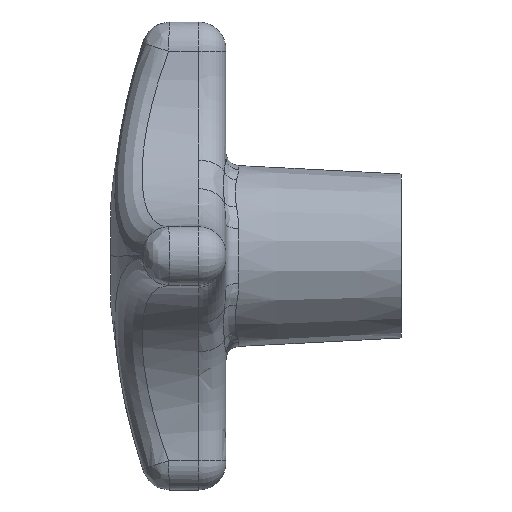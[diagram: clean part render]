
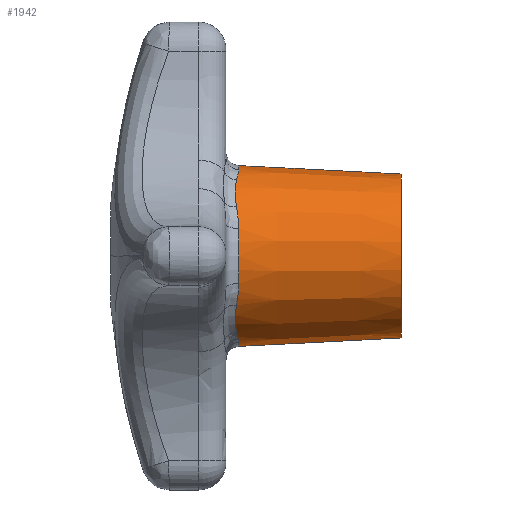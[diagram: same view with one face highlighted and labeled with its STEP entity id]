
A CAD part, left-side view. The second image highlights one B-rep face of the part: STEP entity #1942.
In plain terms, the highlighted conical face has half-angle 3 degrees and reference radius 7 mm.
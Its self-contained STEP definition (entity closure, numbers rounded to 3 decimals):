
#55 = EDGE_CURVE ( 'NONE', #2627, #2489, #959, .T. ) ;
#70 = CARTESIAN_POINT ( 'NONE',  ( -7.363, -1.106, 2.349 ) ) ;
#169 = VERTEX_POINT ( 'NONE', #3291 ) ;
#185 = CARTESIAN_POINT ( 'NONE',  ( 0., -15., 7. ) ) ;
#189 = CARTESIAN_POINT ( 'NONE',  ( -2.349, -1.106, 7.363 ) ) ;
#304 = B_SPLINE_CURVE_WITH_KNOTS ( 'NONE', 3,
 ( #2386, #2650, #775, #2419, #1118, #310, #846, #3273, #1344, #1372 ),
 .UNSPECIFIED., .F., .F.,
 ( 4, 2, 2, 2, 4 ),
 ( 0., 0.001, 0.002, 0.002, 0.003 ),
 .UNSPECIFIED. ) ;
#310 = CARTESIAN_POINT ( 'NONE',  ( -5.29, -0.8, -5.663 ) ) ;
#334 = B_SPLINE_CURVE_WITH_KNOTS ( 'NONE', 3,
 ( #1185, #1972, #3320, #1722 ),
 .UNSPECIFIED., .F., .F.,
 ( 4, 4 ),
 ( 0., 0.002 ),
 .UNSPECIFIED. ) ;
#353 = EDGE_CURVE ( 'NONE', #3410, #1877, #304, .T. ) ;
#359 = AXIS2_PLACEMENT_3D ( 'NONE', #1551, #2589, #1521 ) ;
#362 = VECTOR ( 'NONE', #2424, 1000. ) ;
#444 = EDGE_CURVE ( 'NONE', #2627, #1518, #641, .T. ) ;
#449 = DIRECTION ( 'NONE',  ( 0., 0., -1. ) ) ;
#451 = ORIENTED_EDGE ( 'NONE', *, *, #2303, .T. ) ;
#477 = CARTESIAN_POINT ( 'NONE',  ( -6.185, -0.838, 4.665 ) ) ;
#519 = EDGE_CURVE ( 'NONE', #1877, #2491, #334, .T. ) ;
#560 = EDGE_CURVE ( 'NONE', #1250, #2325, #2996, .T. ) ;
#609 = B_SPLINE_CURVE_WITH_KNOTS ( 'NONE', 3,
 ( #3380, #707, #2605, #2028 ),
 .UNSPECIFIED., .F., .F.,
 ( 4, 4 ),
 ( 0., 0.002 ),
 .UNSPECIFIED. ) ;
#634 = CARTESIAN_POINT ( 'NONE',  ( -7.363, -1.106, 2.349 ) ) ;
#641 = CIRCLE ( 'NONE', #1018, 7. ) ;
#655 = DIRECTION ( 'NONE',  ( 0., 0., -1. ) ) ;
#679 = CARTESIAN_POINT ( 'NONE',  ( -4.218, -0.897, -6.489 ) ) ;
#707 = CARTESIAN_POINT ( 'NONE',  ( -7.15, -1.106, -3.016 ) ) ;
#713 = B_SPLINE_CURVE_WITH_KNOTS ( 'NONE', 3,
 ( #964, #2293, #1524, #2840, #3388, #1221, #977, #477, #1770, #2554 ),
 .UNSPECIFIED., .F., .F.,
 ( 4, 2, 2, 2, 4 ),
 ( 0., 0.001, 0.002, 0.002, 0.003 ),
 .UNSPECIFIED. ) ;
#720 = CARTESIAN_POINT ( 'NONE',  ( -4.218, -0.897, 6.489 ) ) ;
#767 = ORIENTED_EDGE ( 'NONE', *, *, #560, .T. ) ;
#775 = CARTESIAN_POINT ( 'NONE',  ( -6.186, -0.838, -4.664 ) ) ;
#832 = VECTOR ( 'NONE', #3154, 1000. ) ;
#846 = CARTESIAN_POINT ( 'NONE',  ( -5.087, -0.807, -5.845 ) ) ;
#951 = CARTESIAN_POINT ( 'NONE',  ( 0., -1.106, 0. ) ) ;
#954 = CARTESIAN_POINT ( 'NONE',  ( 0., -1.106, 0. ) ) ;
#959 = LINE ( 'NONE', #2705, #362 ) ;
#964 = CARTESIAN_POINT ( 'NONE',  ( -4.218, -0.897, 6.489 ) ) ;
#973 = ORIENTED_EDGE ( 'NONE', *, *, #2186, .T. ) ;
#977 = CARTESIAN_POINT ( 'NONE',  ( -5.845, -0.807, 5.087 ) ) ;
#1014 = ORIENTED_EDGE ( 'NONE', *, *, #444, .T. ) ;
#1018 = AXIS2_PLACEMENT_3D ( 'NONE', #2769, #2221, #2538 ) ;
#1118 = CARTESIAN_POINT ( 'NONE',  ( -5.67, -0.801, -5.282 ) ) ;
#1152 = CIRCLE ( 'NONE', #2719, 7.728 ) ;
#1170 = AXIS2_PLACEMENT_3D ( 'NONE', #1176, #1190, #655 ) ;
#1176 = CARTESIAN_POINT ( 'NONE',  ( 0., -1.106, 0. ) ) ;
#1185 = CARTESIAN_POINT ( 'NONE',  ( -4.218, -0.897, -6.489 ) ) ;
#1190 = DIRECTION ( 'NONE',  ( 0., -1., 0. ) ) ;
#1213 = CARTESIAN_POINT ( 'NONE',  ( 0., -1.106, 7.728 ) ) ;
#1214 = EDGE_CURVE ( 'NONE', #2325, #169, #713, .T. ) ;
#1221 = CARTESIAN_POINT ( 'NONE',  ( -5.663, -0.8, 5.29 ) ) ;
#1239 = DIRECTION ( 'NONE',  ( 0., 0., -1. ) ) ;
#1250 = VERTEX_POINT ( 'NONE', #189 ) ;
#1282 = EDGE_CURVE ( 'NONE', #2170, #1778, #1152, .T. ) ;
#1292 = CARTESIAN_POINT ( 'NONE',  ( -4.218, -0.897, 6.489 ) ) ;
#1344 = CARTESIAN_POINT ( 'NONE',  ( -4.445, -0.861, -6.343 ) ) ;
#1352 = CARTESIAN_POINT ( 'NONE',  ( -6.489, -0.897, -4.218 ) ) ;
#1372 = CARTESIAN_POINT ( 'NONE',  ( -4.218, -0.897, -6.489 ) ) ;
#1382 = CARTESIAN_POINT ( 'NONE',  ( -2.349, -1.106, -7.363 ) ) ;
#1456 = CARTESIAN_POINT ( 'NONE',  ( -6.489, -0.897, 4.218 ) ) ;
#1500 = CIRCLE ( 'NONE', #1170, 7.728 ) ;
#1518 = VERTEX_POINT ( 'NONE', #185 ) ;
#1521 = DIRECTION ( 'NONE',  ( 0., 0., 1. ) ) ;
#1524 = CARTESIAN_POINT ( 'NONE',  ( -4.664, -0.838, 6.186 ) ) ;
#1542 = LINE ( 'NONE', #1772, #832 ) ;
#1551 = CARTESIAN_POINT ( 'NONE',  ( 0., -15., 0. ) ) ;
#1559 = VERTEX_POINT ( 'NONE', #1213 ) ;
#1582 = CONICAL_SURFACE ( 'NONE', #359, 7., 0.052 ) ;
#1589 = ORIENTED_EDGE ( 'NONE', *, *, #1214, .T. ) ;
#1639 = EDGE_CURVE ( 'NONE', #2491, #2489, #1500, .T. ) ;
#1696 = ORIENTED_EDGE ( 'NONE', *, *, #1855, .T. ) ;
#1722 = CARTESIAN_POINT ( 'NONE',  ( -2.349, -1.106, -7.363 ) ) ;
#1761 = CIRCLE ( 'NONE', #2690, 7.728 ) ;
#1770 = CARTESIAN_POINT ( 'NONE',  ( -6.343, -0.861, 4.445 ) ) ;
#1772 = CARTESIAN_POINT ( 'NONE',  ( 0., -15., 7. ) ) ;
#1778 = VERTEX_POINT ( 'NONE', #2537 ) ;
#1782 = DIRECTION ( 'NONE',  ( 0., -1., 0. ) ) ;
#1855 = EDGE_CURVE ( 'NONE', #169, #2170, #2227, .T. ) ;
#1877 = VERTEX_POINT ( 'NONE', #679 ) ;
#1942 = ADVANCED_FACE ( 'NONE', ( #2998 ), #1582, .T. ) ;
#1972 = CARTESIAN_POINT ( 'NONE',  ( -3.636, -0.991, -6.861 ) ) ;
#2028 = CARTESIAN_POINT ( 'NONE',  ( -6.489, -0.897, -4.218 ) ) ;
#2065 = CARTESIAN_POINT ( 'NONE',  ( -2.349, -1.106, 7.363 ) ) ;
#2099 = CARTESIAN_POINT ( 'NONE',  ( -6.861, -0.991, 3.636 ) ) ;
#2170 = VERTEX_POINT ( 'NONE', #634 ) ;
#2185 = ORIENTED_EDGE ( 'NONE', *, *, #55, .F. ) ;
#2186 = EDGE_CURVE ( 'NONE', #1559, #1250, #1761, .T. ) ;
#2190 = ORIENTED_EDGE ( 'NONE', *, *, #2380, .T. ) ;
#2221 = DIRECTION ( 'NONE',  ( 0., 1., 0. ) ) ;
#2227 = B_SPLINE_CURVE_WITH_KNOTS ( 'NONE', 3,
 ( #1456, #2099, #2773, #70 ),
 .UNSPECIFIED., .F., .F.,
 ( 4, 4 ),
 ( 0., 0.002 ),
 .UNSPECIFIED. ) ;
#2281 = ORIENTED_EDGE ( 'NONE', *, *, #1639, .T. ) ;
#2293 = CARTESIAN_POINT ( 'NONE',  ( -4.446, -0.861, 6.343 ) ) ;
#2303 = EDGE_CURVE ( 'NONE', #1778, #3410, #609, .T. ) ;
#2325 = VERTEX_POINT ( 'NONE', #720 ) ;
#2342 = CARTESIAN_POINT ( 'NONE',  ( -3.016, -1.106, 7.15 ) ) ;
#2380 = EDGE_CURVE ( 'NONE', #1518, #1559, #1542, .T. ) ;
#2386 = CARTESIAN_POINT ( 'NONE',  ( -6.489, -0.897, -4.218 ) ) ;
#2419 = CARTESIAN_POINT ( 'NONE',  ( -5.849, -0.808, -5.082 ) ) ;
#2424 = DIRECTION ( 'NONE',  ( 0., 0.999, -0.052 ) ) ;
#2431 = CARTESIAN_POINT ( 'NONE',  ( 0., -1.106, -7.728 ) ) ;
#2489 = VERTEX_POINT ( 'NONE', #2431 ) ;
#2491 = VERTEX_POINT ( 'NONE', #1382 ) ;
#2507 = ORIENTED_EDGE ( 'NONE', *, *, #1282, .T. ) ;
#2515 = CARTESIAN_POINT ( 'NONE',  ( 0., -15., -7. ) ) ;
#2537 = CARTESIAN_POINT ( 'NONE',  ( -7.363, -1.106, -2.349 ) ) ;
#2538 = DIRECTION ( 'NONE',  ( 0., 0., 1. ) ) ;
#2554 = CARTESIAN_POINT ( 'NONE',  ( -6.489, -0.897, 4.218 ) ) ;
#2589 = DIRECTION ( 'NONE',  ( 0., 1., 0. ) ) ;
#2605 = CARTESIAN_POINT ( 'NONE',  ( -6.861, -0.991, -3.636 ) ) ;
#2627 = VERTEX_POINT ( 'NONE', #2515 ) ;
#2650 = CARTESIAN_POINT ( 'NONE',  ( -6.343, -0.861, -4.446 ) ) ;
#2690 = AXIS2_PLACEMENT_3D ( 'NONE', #954, #2833, #1239 ) ;
#2705 = CARTESIAN_POINT ( 'NONE',  ( 0., -15., -7. ) ) ;
#2719 = AXIS2_PLACEMENT_3D ( 'NONE', #951, #1782, #449 ) ;
#2769 = CARTESIAN_POINT ( 'NONE',  ( 0., -15., 0. ) ) ;
#2773 = CARTESIAN_POINT ( 'NONE',  ( -7.15, -1.106, 3.016 ) ) ;
#2833 = DIRECTION ( 'NONE',  ( 0., -1., 0. ) ) ;
#2840 = CARTESIAN_POINT ( 'NONE',  ( -5.082, -0.808, 5.849 ) ) ;
#2847 = EDGE_LOOP ( 'NONE', ( #2185, #1014, #2190, #973, #767, #1589, #1696, #2507, #451, #3163, #3104, #2281 ) ) ;
#2996 = B_SPLINE_CURVE_WITH_KNOTS ( 'NONE', 3,
 ( #2065, #2342, #3421, #1292 ),
 .UNSPECIFIED., .F., .F.,
 ( 4, 4 ),
 ( 0., 0.002 ),
 .UNSPECIFIED. ) ;
#2998 = FACE_OUTER_BOUND ( 'NONE', #2847, .T. ) ;
#3104 = ORIENTED_EDGE ( 'NONE', *, *, #519, .T. ) ;
#3154 = DIRECTION ( 'NONE',  ( 0., 0.999, 0.052 ) ) ;
#3163 = ORIENTED_EDGE ( 'NONE', *, *, #353, .T. ) ;
#3273 = CARTESIAN_POINT ( 'NONE',  ( -4.665, -0.838, -6.185 ) ) ;
#3291 = CARTESIAN_POINT ( 'NONE',  ( -6.489, -0.897, 4.218 ) ) ;
#3320 = CARTESIAN_POINT ( 'NONE',  ( -3.016, -1.106, -7.15 ) ) ;
#3380 = CARTESIAN_POINT ( 'NONE',  ( -7.363, -1.106, -2.349 ) ) ;
#3388 = CARTESIAN_POINT ( 'NONE',  ( -5.282, -0.801, 5.67 ) ) ;
#3410 = VERTEX_POINT ( 'NONE', #1352 ) ;
#3421 = CARTESIAN_POINT ( 'NONE',  ( -3.636, -0.991, 6.861 ) ) ;
